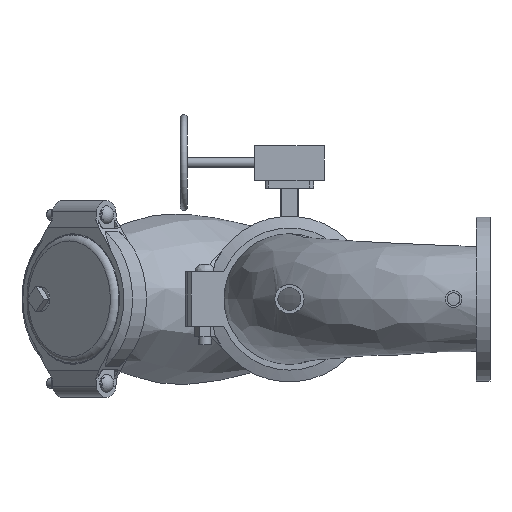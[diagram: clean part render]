
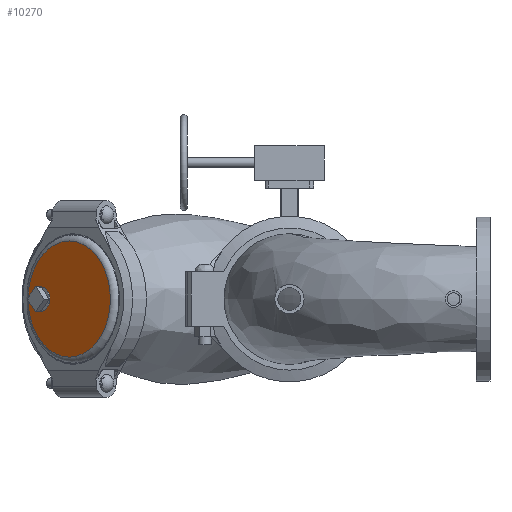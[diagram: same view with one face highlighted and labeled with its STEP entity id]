
A CAD part, front view. The second image highlights one B-rep face of the part: STEP entity #10270.
In plain terms, the highlighted planar face has unit normal (-0.707, -0.707, 0) as drawn and (1, 0, 0) by its records, which use the part's own axes.
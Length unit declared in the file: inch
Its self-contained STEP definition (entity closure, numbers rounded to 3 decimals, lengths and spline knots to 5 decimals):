
#1978=FACE_BOUND('',#2935,.T.);
#2325=FACE_OUTER_BOUND('',#2934,.T.);
#2934=EDGE_LOOP('',(#7628,#7629));
#2935=EDGE_LOOP('',(#7630));
#3536=CIRCLE('',#11368,1.);
#3544=CIRCLE('',#11379,4.781);
#3545=CIRCLE('',#11380,4.781);
#4329=VERTEX_POINT('',#21043);
#4337=VERTEX_POINT('',#21064);
#4338=VERTEX_POINT('',#21065);
#5517=EDGE_CURVE('',#4329,#4329,#3536,.T.);
#5526=EDGE_CURVE('',#4337,#4338,#3544,.T.);
#5527=EDGE_CURVE('',#4338,#4337,#3545,.T.);
#7628=ORIENTED_EDGE('',*,*,#5526,.T.);
#7629=ORIENTED_EDGE('',*,*,#5527,.T.);
#7630=ORIENTED_EDGE('',*,*,#5517,.T.);
#9261=PLANE('',#11382);
#10270=ADVANCED_FACE('',(#2325,#1978),#9261,.T.);
#11368=AXIS2_PLACEMENT_3D('',#21045,#13397,#13398);
#11379=AXIS2_PLACEMENT_3D('',#21066,#13420,#13421);
#11380=AXIS2_PLACEMENT_3D('',#21067,#13422,#13423);
#11382=AXIS2_PLACEMENT_3D('',#21069,#13426,#13427);
#13397=DIRECTION('center_axis',(-1.,0.,0.));
#13398=DIRECTION('ref_axis',(0.,0.,1.));
#13420=DIRECTION('center_axis',(1.,0.,0.));
#13421=DIRECTION('ref_axis',(0.,0.,-1.));
#13422=DIRECTION('center_axis',(1.,0.,0.));
#13423=DIRECTION('ref_axis',(0.,0.,-1.));
#13426=DIRECTION('center_axis',(1.,0.,0.));
#13427=DIRECTION('ref_axis',(0.,0.,-1.));
#21043=CARTESIAN_POINT('',(1.68,3.25,-1.));
#21045=CARTESIAN_POINT('Origin',(1.68,3.25,0.));
#21064=CARTESIAN_POINT('',(1.68,4.781,0.));
#21065=CARTESIAN_POINT('',(1.68,0.,4.781));
#21066=CARTESIAN_POINT('Origin',(1.68,0.,0.));
#21067=CARTESIAN_POINT('Origin',(1.68,0.,0.));
#21069=CARTESIAN_POINT('Origin',(1.68,0.,0.));
